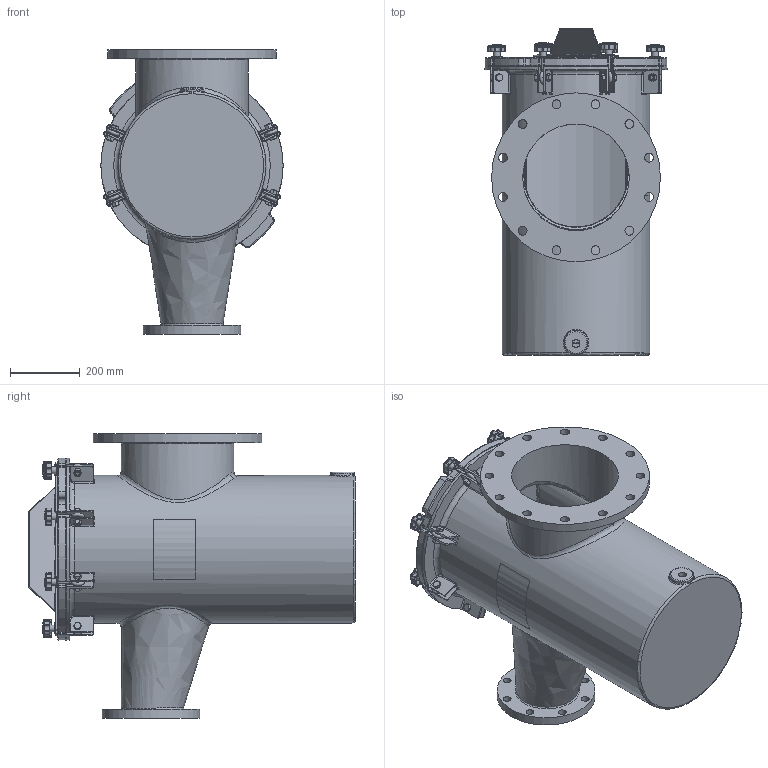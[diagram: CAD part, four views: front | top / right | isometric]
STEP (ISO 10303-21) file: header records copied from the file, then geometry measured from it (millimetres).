
FILE_DESCRIPTION(/* description */ ('STRAINER BODY'),/* implementation_level */ '2;1');
FILE_NAME(/* name */ '\\chntshnas1\IP_PUMPS\NeptuneBenson\Project Execution\WIP\Ready for delivery - Do not Disturb -Updated with metric Flange\Workspace\FG Reducing Strainer\150NBFG26ER1.stp',/* time_stamp */ '2016-10-19T11:56:51+05:00',/* author */ ('20076253'),/* organization */ (''),/* preprocessor_version */ 'ST-DEVELOPER v16.1',/* originating_system */ 'Autodesk Inventor 2016',/* authorisation */ '');
FILE_SCHEMA (('AUTOMOTIVE_DESIGN { 1 0 10303 214 3 1 1 }'));
Length unit declared in the file: inch
Products named in the file (24): NBFG26EBODYR1; 150NBCVR20R2; 150NBGSK16R1; Perforated Basket 16in; Bride (Ring) 16in; Baffle 16in; Handle 16in; Bottom Strainer 16in; NBBSK10T316; BRACESTRCVR16_Welds; BRACE (BASE) FOR 16 BODY; BRACE (PROJ) FOR 16 BODY; Bumper; BRACESTRCVR16; Nut- 1_2  UNC; Bolt-1_2 x 1 1_2  UNC; EyeBolt; Washer; Knob M10; Securing Assembly For FG  with Brace; Securing Assembly For FG without Brace; Label for 16.625 inch (Right); Label for 16.625 inch (Left); Guardian FG Reducing H&L Strainer (Inch)
Assembly tree (39 placements, depth 3):
  Guardian FG Reducing H&L Strainer (Inch)
    NBFG26EBODYR1
    150NBCVR20R2
    150NBGSK16R1
    NBBSK10T316
      Perforated Basket 16in
      Bride (Ring) 16in
      Baffle 16in
      Handle 16in
      Bottom Strainer 16in
    BRACESTRCVR16
      BRACESTRCVR16_Welds
      BRACE (BASE) FOR 16 BODY
      BRACE (PROJ) FOR 16 BODY
      Bumper  x6
    Securing Assembly For FG  with Brace  x2
      Nut- 1_2  UNC
      Bolt-1_2 x 1 1_2  UNC
      EyeBolt
      Washer
      Knob M10
    Securing Assembly For FG without Brace  x6
      Nut- 1_2  UNC
      Bolt-1_2 x 1 1_2  UNC
      EyeBolt
      Washer
      Knob M10
    Label for 16.625 inch (Right)
    Label for 16.625 inch (Left)
Bounding box: 520.7 x 933.45 x 812.8 mm (x, y, z)
Volume: 23529849.3 mm3; surface area: 5830456.2 mm2
Topology: 66 solids, 66 shells, 1804 faces, 4113 edges, 2430 vertices
Faces by surface type: cylinder 658, plane 500, cone 184, torus 166, sphere 158, bspline 138
Full cylindrical faces by diameter (mm): 3.175 x11, 6.35 x2, 8.382 x8, 9.525 x16, 10.592 x8, 12.7 x8, 15.875 x16, 19 x16, 19.05 x8, 22.225 x8, 22.809 x1, 25.4 x12, 31.75 x8, 68.263 x1, 279.4 x1, 295.275 x2, 298.45 x1, 300.99 x1, 304.8 x1, 320.675 x1, 406.4 x2, 409.575 x1, 415.925 x1, 422.275 x1, 457.2 x1, 463.55 x1, 482.6 x1
Entity records: 34059 total; most frequent: CARTESIAN_POINT 11268, DIRECTION 4715, ORIENTED_EDGE 4300, EDGE_CURVE 2150, AXIS2_PLACEMENT_3D 1934, VERTEX_POINT 1347, EDGE_LOOP 1167, ADVANCED_FACE 954
